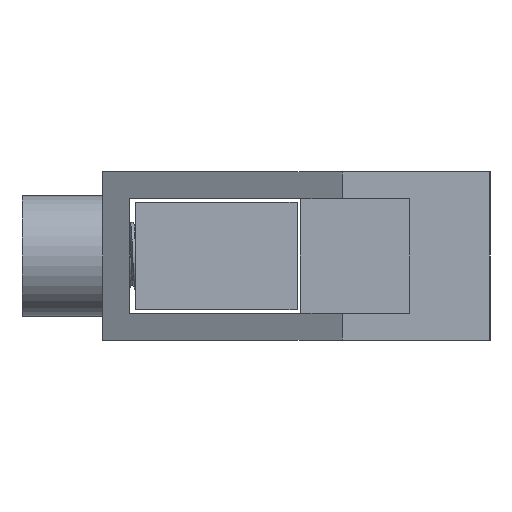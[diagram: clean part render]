
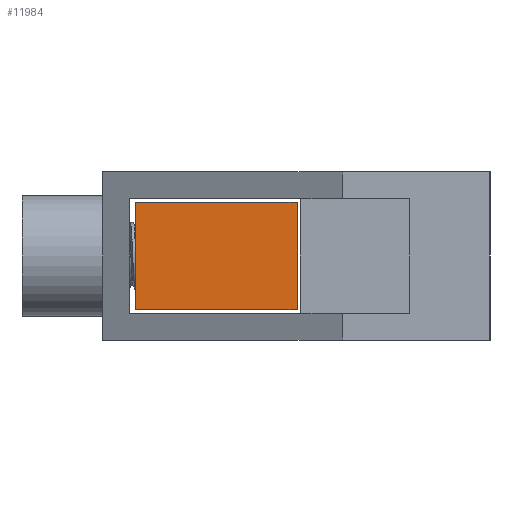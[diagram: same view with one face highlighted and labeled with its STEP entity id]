
A CAD part, left-side view. The second image highlights one B-rep face of the part: STEP entity #11984.
In plain terms, the highlighted planar face has unit normal (-1, 0, 0).
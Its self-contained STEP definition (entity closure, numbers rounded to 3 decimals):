
#112 = VERTEX_POINT ( 'NONE', #7913 ) ;
#214 = ORIENTED_EDGE ( 'NONE', *, *, #9454, .F. ) ;
#388 = CARTESIAN_POINT ( 'NONE',  ( 0., 0., -8. ) ) ;
#424 = CARTESIAN_POINT ( 'NONE',  ( 0., 0., -8. ) ) ;
#604 = VECTOR ( 'NONE', #6697, 1000. ) ;
#944 = LINE ( 'NONE', #424, #604 ) ;
#1228 = DIRECTION ( 'NONE',  ( 0., -1., 0. ) ) ;
#2329 = EDGE_CURVE ( 'NONE', #6255, #112, #6623, .T. ) ;
#2432 = CARTESIAN_POINT ( 'NONE',  ( 0., 0., -8. ) ) ;
#2461 = LINE ( 'NONE', #12809, #10536 ) ;
#2480 = CARTESIAN_POINT ( 'NONE',  ( 0., 12., -8. ) ) ;
#2530 = DIRECTION ( 'NONE',  ( 0., 0., 1. ) ) ;
#3275 = ORIENTED_EDGE ( 'NONE', *, *, #2329, .F. ) ;
#3544 = PLANE ( 'NONE',  #5038 ) ;
#4600 = DIRECTION ( 'NONE',  ( -1., 0., 0. ) ) ;
#4604 = CARTESIAN_POINT ( 'NONE',  ( 0., 12., -8. ) ) ;
#4653 = CARTESIAN_POINT ( 'NONE',  ( 0., 0., -8. ) ) ;
#5038 = AXIS2_PLACEMENT_3D ( 'NONE', #388, #4600, #12006 ) ;
#5444 = EDGE_LOOP ( 'NONE', ( #214, #3275, #10598, #8102 ) ) ;
#5661 = VECTOR ( 'NONE', #9799, 1000. ) ;
#5990 = LINE ( 'NONE', #2432, #5661 ) ;
#6255 = VERTEX_POINT ( 'NONE', #4604 ) ;
#6623 = LINE ( 'NONE', #2480, #12262 ) ;
#6697 = DIRECTION ( 'NONE',  ( 0., -1., 0. ) ) ;
#7057 = VERTEX_POINT ( 'NONE', #9059 ) ;
#7913 = CARTESIAN_POINT ( 'NONE',  ( 0., 12., 0. ) ) ;
#8102 = ORIENTED_EDGE ( 'NONE', *, *, #11331, .T. ) ;
#9059 = CARTESIAN_POINT ( 'NONE',  ( 0., 0., 0. ) ) ;
#9454 = EDGE_CURVE ( 'NONE', #112, #7057, #2461, .T. ) ;
#9640 = FACE_OUTER_BOUND ( 'NONE', #5444, .T. ) ;
#9799 = DIRECTION ( 'NONE',  ( 0., 0., 1. ) ) ;
#10273 = EDGE_CURVE ( 'NONE', #6255, #12017, #944, .T. ) ;
#10536 = VECTOR ( 'NONE', #1228, 1000. ) ;
#10598 = ORIENTED_EDGE ( 'NONE', *, *, #10273, .T. ) ;
#11331 = EDGE_CURVE ( 'NONE', #12017, #7057, #5990, .T. ) ;
#11984 = ADVANCED_FACE ( 'NONE', ( #9640 ), #3544, .T. ) ;
#12006 = DIRECTION ( 'NONE',  ( 0., 0., 1. ) ) ;
#12017 = VERTEX_POINT ( 'NONE', #4653 ) ;
#12262 = VECTOR ( 'NONE', #2530, 1000. ) ;
#12809 = CARTESIAN_POINT ( 'NONE',  ( 0., 0., 0. ) ) ;
